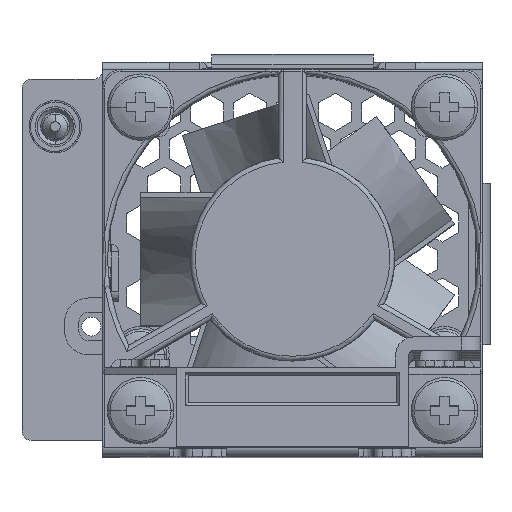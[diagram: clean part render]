
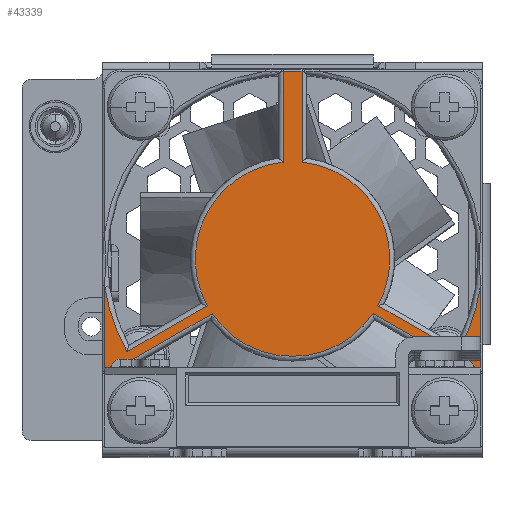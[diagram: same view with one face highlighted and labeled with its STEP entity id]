
A CAD part, top view. The second image highlights one B-rep face of the part: STEP entity #43339.
In plain terms, the highlighted planar face has unit normal (0, 0, 1).
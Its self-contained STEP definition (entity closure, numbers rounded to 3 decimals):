
#38702=CARTESIAN_POINT('',(0.,20.,56.));
#38703=DIRECTION('',(0.,0.,-1.));
#38704=DIRECTION('',(0.098,0.995,0.));
#38705=AXIS2_PLACEMENT_3D('',#38702,#38703,#38704);
#38707=DIRECTION('',(0.866,-0.5,0.));
#38708=VECTOR('',#38707,9.751);
#38709=CARTESIAN_POINT('',(8.999,15.093,56.));
#38710=LINE('',#38709,#38708);
#38711=CARTESIAN_POINT('',(0.,20.,56.));
#38712=DIRECTION('',(0.,0.,1.));
#38713=DIRECTION('',(0.872,-0.489,0.));
#38714=AXIS2_PLACEMENT_3D('',#38711,#38712,#38713);
#38716=CARTESIAN_POINT('',(18.,2.,56.));
#38717=DIRECTION('',(0.,0.,-1.));
#38718=DIRECTION('',(1.,0.,0.));
#38719=AXIS2_PLACEMENT_3D('',#38716,#38717,#38718);
#38721=CARTESIAN_POINT('',(0.,20.,56.));
#38722=DIRECTION('',(0.,0.,1.));
#38723=DIRECTION('',(0.141,-0.99,0.));
#38724=AXIS2_PLACEMENT_3D('',#38721,#38722,#38723);
#38726=DIRECTION('',(-0.866,0.5,0.));
#38727=VECTOR('',#38726,9.763);
#38728=CARTESIAN_POINT('',(16.933,9.358,56.));
#38729=LINE('',#38728,#38727);
#38730=CARTESIAN_POINT('',(0.,20.,56.));
#38731=DIRECTION('',(0.,0.,-1.));
#38732=DIRECTION('',(0.827,-0.562,0.));
#38733=AXIS2_PLACEMENT_3D('',#38730,#38731,#38732);
#38735=DIRECTION('',(-0.866,-0.5,0.));
#38736=VECTOR('',#38735,9.763);
#38737=CARTESIAN_POINT('',(-8.478,14.239,56.));
#38738=LINE('',#38737,#38736);
#38739=CARTESIAN_POINT('',(0.,20.,56.));
#38740=DIRECTION('',(0.,0.,1.));
#38741=DIRECTION('',(-0.847,-0.532,0.));
#38742=AXIS2_PLACEMENT_3D('',#38739,#38740,#38741);
#38744=CARTESIAN_POINT('',(-18.,2.,56.));
#38745=DIRECTION('',(0.,0.,-1.));
#38746=DIRECTION('',(0.,-1.,0.));
#38747=AXIS2_PLACEMENT_3D('',#38744,#38745,#38746);
#38749=CARTESIAN_POINT('',(0.,20.,56.));
#38750=DIRECTION('',(0.,0.,1.));
#38751=DIRECTION('',(-0.99,-0.141,0.));
#38752=AXIS2_PLACEMENT_3D('',#38749,#38750,#38751);
#38754=DIRECTION('',(0.866,0.5,0.));
#38755=VECTOR('',#38754,9.751);
#38756=CARTESIAN_POINT('',(-17.444,10.217,56.));
#38757=LINE('',#38756,#38755);
#38758=CARTESIAN_POINT('',(0.,20.,56.));
#38759=DIRECTION('',(0.,0.,-1.));
#38760=DIRECTION('',(-0.878,-0.479,0.));
#38761=AXIS2_PLACEMENT_3D('',#38758,#38759,#38760);
#38763=CARTESIAN_POINT('',(16.,4.,56.));
#38764=DIRECTION('',(0.,0.,1.));
#38765=DIRECTION('',(1.,0.,0.));
#38766=AXIS2_PLACEMENT_3D('',#38763,#38764,#38765);
#38768=CARTESIAN_POINT('',(16.,4.,56.));
#38769=DIRECTION('',(0.,0.,1.));
#38770=DIRECTION('',(-1.,0.,0.));
#38771=AXIS2_PLACEMENT_3D('',#38768,#38769,#38770);
#38773=CARTESIAN_POINT('',(-16.,4.,56.));
#38774=DIRECTION('',(0.,0.,1.));
#38775=DIRECTION('',(1.,0.,0.));
#38776=AXIS2_PLACEMENT_3D('',#38773,#38774,#38775);
#38778=CARTESIAN_POINT('',(-16.,4.,56.));
#38779=DIRECTION('',(0.,0.,1.));
#38780=DIRECTION('',(-1.,0.,0.));
#38781=AXIS2_PLACEMENT_3D('',#38778,#38779,#38780);
#38783=DIRECTION('',(-1.,0.,0.));
#38784=VECTOR('',#38783,2.);
#38785=CARTESIAN_POINT('',(1.,39.8,56.));
#38786=LINE('',#38785,#38784);
#38801=DIRECTION('',(0.,-1.,0.));
#38802=VECTOR('',#38801,9.599);
#38803=CARTESIAN_POINT('',(-1.,39.8,56.));
#38804=LINE('',#38803,#38802);
#38951=DIRECTION('',(0.,-1.,0.));
#38952=VECTOR('',#38951,15.179);
#38953=CARTESIAN_POINT('',(-19.8,17.179,
56.));
#38954=LINE('',#38953,#38952);
#38985=DIRECTION('',(1.,0.,0.));
#38986=VECTOR('',#38985,15.179);
#38987=CARTESIAN_POINT('',(-18.,0.2,56.));
#38988=LINE('',#38987,#38986);
#39193=DIRECTION('',(0.,1.,0.));
#39194=VECTOR('',#39193,9.599);
#39195=CARTESIAN_POINT('',(1.,30.201,56.));
#39196=LINE('',#39195,#39194);
#39340=DIRECTION('',(0.,1.,0.));
#39341=VECTOR('',#39340,15.179);
#39342=CARTESIAN_POINT('',(19.8,2.,56.));
#39343=LINE('',#39342,#39341);
#41122=DIRECTION('',(1.,0.,0.));
#41123=VECTOR('',#41122,15.179);
#41124=CARTESIAN_POINT('',(2.821,0.2,
56.));
#41125=LINE('',#41124,#41123);
#41784=CARTESIAN_POINT('',(1.,39.8,56.));
#41785=CARTESIAN_POINT('',(-1.,39.8,56.));
#41786=VERTEX_POINT('',#41784);
#41787=VERTEX_POINT('',#41785);
#41788=CARTESIAN_POINT('',(1.,30.201,56.));
#41789=VERTEX_POINT('',#41788);
#41790=CARTESIAN_POINT('',(8.999,15.093,56.));
#41791=VERTEX_POINT('',#41790);
#41792=CARTESIAN_POINT('',(17.444,10.217,56.));
#41793=VERTEX_POINT('',#41792);
#41794=CARTESIAN_POINT('',(19.8,17.179,56.));
#41795=VERTEX_POINT('',#41794);
#41796=CARTESIAN_POINT('',(19.8,2.,56.));
#41797=VERTEX_POINT('',#41796);
#41798=CARTESIAN_POINT('',(18.,0.2,56.));
#41799=VERTEX_POINT('',#41798);
#41800=CARTESIAN_POINT('',(2.821,0.2,
56.));
#41801=VERTEX_POINT('',#41800);
#41802=CARTESIAN_POINT('',(16.933,9.358,56.));
#41803=VERTEX_POINT('',#41802);
#41804=CARTESIAN_POINT('',(8.478,14.239,56.));
#41805=VERTEX_POINT('',#41804);
#41806=CARTESIAN_POINT('',(-8.478,14.239,56.));
#41807=VERTEX_POINT('',#41806);
#41808=CARTESIAN_POINT('',(-16.933,9.358,56.));
#41809=VERTEX_POINT('',#41808);
#41810=CARTESIAN_POINT('',(-2.821,0.2,56.));
#41811=VERTEX_POINT('',#41810);
#41812=CARTESIAN_POINT('',(-18.,0.2,56.));
#41813=VERTEX_POINT('',#41812);
#41814=CARTESIAN_POINT('',(-19.8,2.,56.));
#41815=VERTEX_POINT('',#41814);
#41816=CARTESIAN_POINT('',(-19.8,17.179,
56.));
#41817=VERTEX_POINT('',#41816);
#41818=CARTESIAN_POINT('',(-17.444,10.217,56.));
#41819=VERTEX_POINT('',#41818);
#41820=CARTESIAN_POINT('',(-8.999,15.093,56.));
#41821=VERTEX_POINT('',#41820);
#41822=CARTESIAN_POINT('',(-1.,30.201,56.));
#41823=VERTEX_POINT('',#41822);
#41824=CARTESIAN_POINT('',(17.75,4.,56.));
#41825=CARTESIAN_POINT('',(14.25,4.,56.));
#41826=VERTEX_POINT('',#41824);
#41827=VERTEX_POINT('',#41825);
#41828=CARTESIAN_POINT('',(-14.25,4.,56.));
#41829=CARTESIAN_POINT('',(-17.75,4.,56.));
#41830=VERTEX_POINT('',#41828);
#41831=VERTEX_POINT('',#41829);
#43281=CARTESIAN_POINT('',(0.,0.,56.));
#43282=DIRECTION('',(0.,0.,1.));
#43283=DIRECTION('',(1.,0.,0.));
#43284=AXIS2_PLACEMENT_3D('',#43281,#43282,#43283);
#43285=PLANE('',#43284);
#43287=ORIENTED_EDGE('',*,*,#43286,.F.);
#43289=ORIENTED_EDGE('',*,*,#43288,.F.);
#43291=ORIENTED_EDGE('',*,*,#43290,.T.);
#43293=ORIENTED_EDGE('',*,*,#43292,.T.);
#43295=ORIENTED_EDGE('',*,*,#43294,.T.);
#43297=ORIENTED_EDGE('',*,*,#43296,.F.);
#43298=ORIENTED_EDGE('',*,*,#43271,.T.);
#43300=ORIENTED_EDGE('',*,*,#43299,.F.);
#43302=ORIENTED_EDGE('',*,*,#43301,.T.);
#43304=ORIENTED_EDGE('',*,*,#43303,.T.);
#43306=ORIENTED_EDGE('',*,*,#43305,.T.);
#43308=ORIENTED_EDGE('',*,*,#43307,.T.);
#43310=ORIENTED_EDGE('',*,*,#43309,.T.);
#43312=ORIENTED_EDGE('',*,*,#43311,.F.);
#43314=ORIENTED_EDGE('',*,*,#43313,.T.);
#43316=ORIENTED_EDGE('',*,*,#43315,.F.);
#43318=ORIENTED_EDGE('',*,*,#43317,.T.);
#43320=ORIENTED_EDGE('',*,*,#43319,.T.);
#43322=ORIENTED_EDGE('',*,*,#43321,.T.);
#43324=ORIENTED_EDGE('',*,*,#43323,.F.);
#43325=EDGE_LOOP('',(#43287,#43289,#43291,#43293,#43295,#43297,#43298,#43300,
#43302,#43304,#43306,#43308,#43310,#43312,#43314,#43316,#43318,#43320,#43322,
#43324));
#43326=FACE_OUTER_BOUND('',#43325,.F.);
#43328=ORIENTED_EDGE('',*,*,#43327,.T.);
#43330=ORIENTED_EDGE('',*,*,#43329,.T.);
#43331=EDGE_LOOP('',(#43328,#43330));
#43332=FACE_BOUND('',#43331,.F.);
#43334=ORIENTED_EDGE('',*,*,#43333,.T.);
#43336=ORIENTED_EDGE('',*,*,#43335,.T.);
#43337=EDGE_LOOP('',(#43334,#43336));
#43338=FACE_BOUND('',#43337,.F.);
#38706=CIRCLE('',#38705,10.25);
#38715=CIRCLE('',#38714,20.);
#38720=CIRCLE('',#38719,1.8);
#38725=CIRCLE('',#38724,20.);
#38734=CIRCLE('',#38733,10.25);
#38743=CIRCLE('',#38742,20.);
#38748=CIRCLE('',#38747,1.8);
#38753=CIRCLE('',#38752,20.);
#38762=CIRCLE('',#38761,10.25);
#38767=CIRCLE('',#38766,1.75);
#38772=CIRCLE('',#38771,1.75);
#38777=CIRCLE('',#38776,1.75);
#38782=CIRCLE('',#38781,1.75);
#43271=EDGE_CURVE('',#41797,#41799,#38720,.T.);
#43286=EDGE_CURVE('',#41786,#41787,#38786,.T.);
#43288=EDGE_CURVE('',#41789,#41786,#39196,.T.);
#43290=EDGE_CURVE('',#41789,#41791,#38706,.T.);
#43292=EDGE_CURVE('',#41791,#41793,#38710,.T.);
#43294=EDGE_CURVE('',#41793,#41795,#38715,.T.);
#43296=EDGE_CURVE('',#41797,#41795,#39343,.T.);
#43299=EDGE_CURVE('',#41801,#41799,#41125,.T.);
#43301=EDGE_CURVE('',#41801,#41803,#38725,.T.);
#43303=EDGE_CURVE('',#41803,#41805,#38729,.T.);
#43305=EDGE_CURVE('',#41805,#41807,#38734,.T.);
#43307=EDGE_CURVE('',#41807,#41809,#38738,.T.);
#43309=EDGE_CURVE('',#41809,#41811,#38743,.T.);
#43311=EDGE_CURVE('',#41813,#41811,#38988,.T.);
#43313=EDGE_CURVE('',#41813,#41815,#38748,.T.);
#43315=EDGE_CURVE('',#41817,#41815,#38954,.T.);
#43317=EDGE_CURVE('',#41817,#41819,#38753,.T.);
#43319=EDGE_CURVE('',#41819,#41821,#38757,.T.);
#43321=EDGE_CURVE('',#41821,#41823,#38762,.T.);
#43323=EDGE_CURVE('',#41787,#41823,#38804,.T.);
#43327=EDGE_CURVE('',#41826,#41827,#38767,.T.);
#43329=EDGE_CURVE('',#41827,#41826,#38772,.T.);
#43333=EDGE_CURVE('',#41830,#41831,#38777,.T.);
#43335=EDGE_CURVE('',#41831,#41830,#38782,.T.);
#43339=ADVANCED_FACE('',(#43326,#43332,#43338),#43285,.T.);
